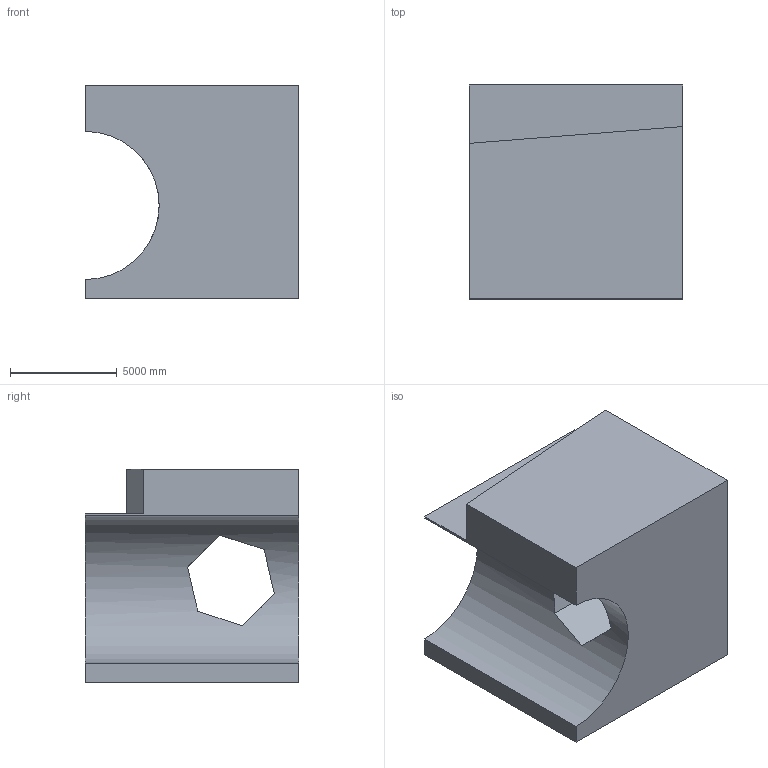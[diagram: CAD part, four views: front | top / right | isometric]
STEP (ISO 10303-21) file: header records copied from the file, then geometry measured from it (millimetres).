
FILE_DESCRIPTION (( 'STEP AP203' ), '1' );
FILE_NAME ('252.STEP', '2022-09-07T15:11:45', ( 'user' ), ( '' ), 'SwSTEP 2.0', 'SolidWorks 2021', '' );
FILE_SCHEMA (( 'CONFIG_CONTROL_DESIGN' ));
Length unit declared in the file: centimetre
Products named in the file (1): 252
Bounding box: 10000 x 10000 x 10000 mm (x, y, z)
Volume: 682637391880 mm3; surface area: 656011564.7 mm2
Topology: 1 solids, 1 shells, 16 faces, 42 edges, 28 vertices
Faces by surface type: plane 15, cylinder 1
Entity records: 569 total; most frequent: CARTESIAN_POINT 105, ORIENTED_EDGE 84, DIRECTION 72, EDGE_CURVE 42, VECTOR 34, LINE 34, VERTEX_POINT 28, AXIS2_PLACEMENT_3D 19
